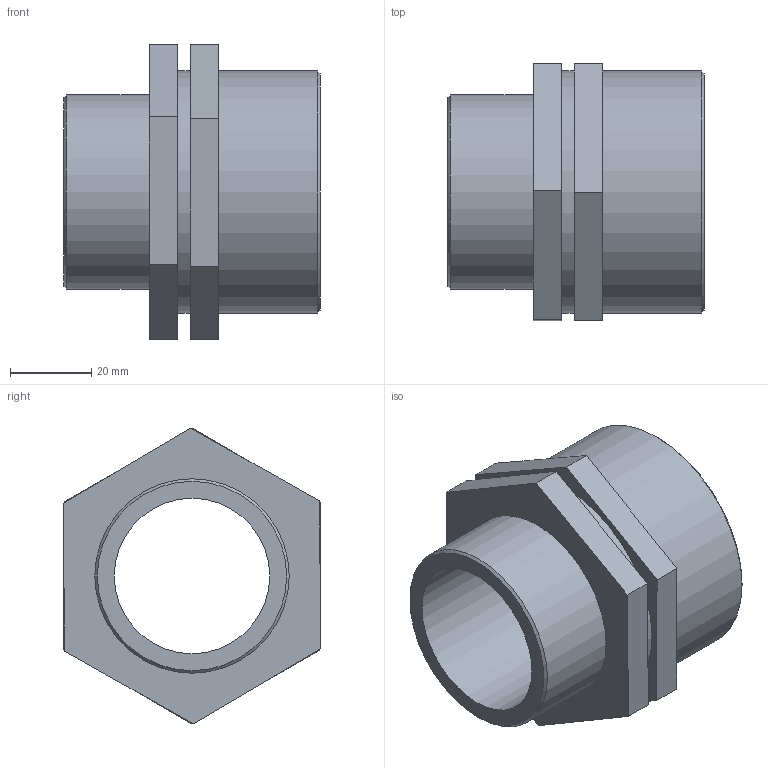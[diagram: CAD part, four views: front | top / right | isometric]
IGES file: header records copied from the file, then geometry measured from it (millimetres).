
Global section: file name: 050605020015_0506050200150A.ipt; native system: Autodesk Inventor 2015; preprocessor: unknown; author: KIM; date: 20170618.093238; units: millimetre
Bounding box: 63 x 63.34 x 72.75 mm (x, y, z)
Volume: 69068.7 mm3; surface area: 25802.3 mm2
Topology: 1 solids, 1 shells, 26 faces, 59 edges, 40 vertices
Faces by surface type: plane 19, cylinder 3, cone 2, revolution 2
Full cylindrical faces by diameter (mm): 47.803 x1, 59.614 x2
